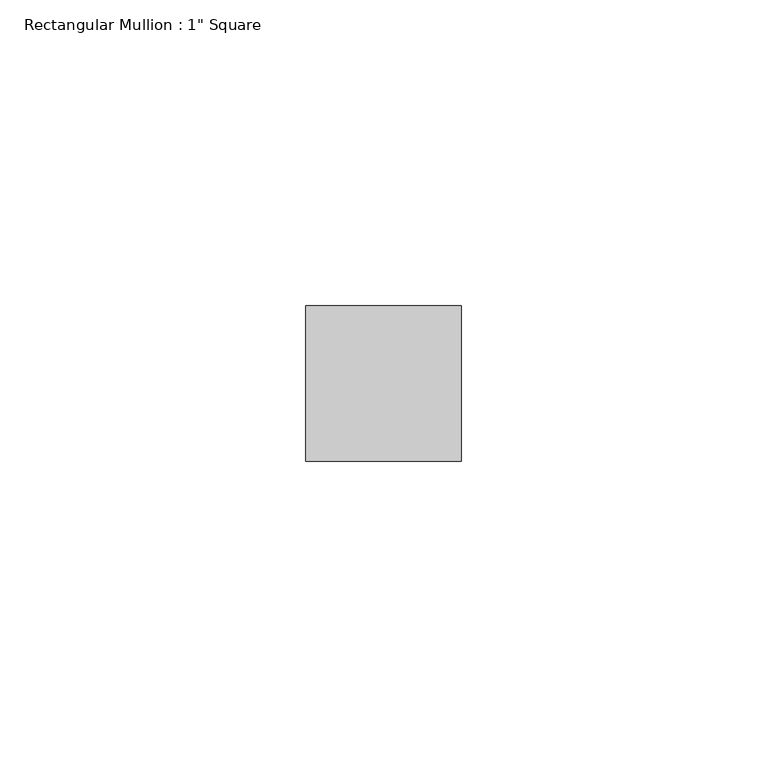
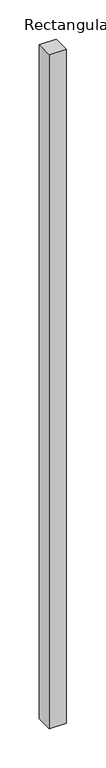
"""IFC4 building model written with IfcOpenShell, lengths in millimetres: member geometry."""

from ifc_helpers import new_model, si_unit, frame, origin, place, context, project, spatial, polyline, outline, extrude, source, transform, mapped, element, save


def member_15538b30(model_context):
    return source(origin(), model_context, "Body", "SweptSolid", [
        extrude(outline(polyline([(0.0, 12.7), (0.0, -12.7), (-25.4, -12.7), (-25.4, 12.7), (0.0, 12.7)])), frame((0.0, 0.0, -1048.6115409), z_axis=(0.0, 0.0, 1.0), x_axis=(1.0, 0.0, 0.0)), (0.0, 0.0, 1.0), 1048.6115409),
    ])


if __name__ == "__main__":
    model = new_model("IFC4")
    model_context = context("Model", 3, world=origin())
    ifc_project = project(units=[si_unit("LENGTHUNIT", "METRE", prefix="MILLI")], contexts=[model_context])
    site = spatial("IfcSite", under=ifc_project)
    building = spatial("IfcBuilding", under=site)
    placement = place(None, origin())
    member_shape = member_15538b30(model_context)
    element("IfcMember", 1, ObjectType="Rectangular Mullion : 1\" Square", at=placement, inside=building, context=model_context, shape_type="MappedRepresentation", body=[
        mapped(member_shape, transform((0.0, 0.0, 0.0), x_axis=(1.0, 0.0, 0.0), y_axis=(0.0, 1.0, 0.0), z_axis=(0.0, 0.0, 1.0))),
    ])
    save(model, "model.ifc")
